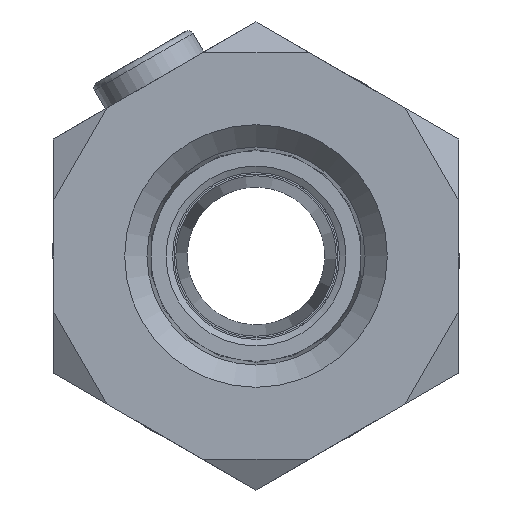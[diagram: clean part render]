
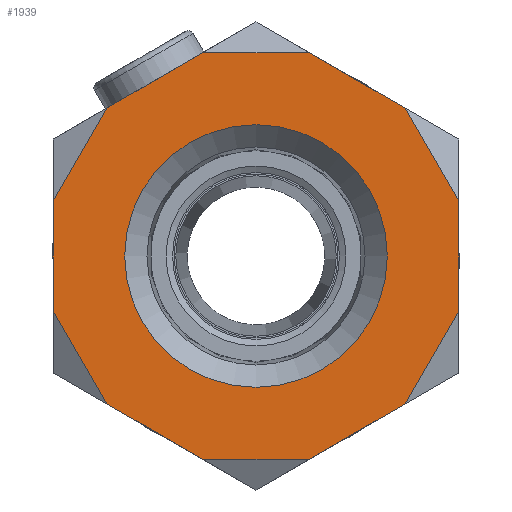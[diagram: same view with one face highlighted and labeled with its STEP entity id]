
A CAD part, left-side view. The second image highlights one B-rep face of the part: STEP entity #1939.
In plain terms, the highlighted planar face has unit normal (-1, 0, 0).
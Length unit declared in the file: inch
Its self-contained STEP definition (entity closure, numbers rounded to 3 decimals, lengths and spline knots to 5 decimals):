
#29 = CARTESIAN_POINT ( 'NONE',  ( 0., 0., -0.24242 ) ) ;
#98 = ORIENTED_EDGE ( 'NONE', *, *, #703, .F. ) ;
#101 = ORIENTED_EDGE ( 'NONE', *, *, #502, .T. ) ;
#114 = CARTESIAN_POINT ( 'NONE',  ( 0., -0.37402, 0.10219 ) ) ;
#122 = CARTESIAN_POINT ( 'NONE',  ( 0., -0.09851, -0.375 ) ) ;
#146 = LINE ( 'NONE', #1463, #1513 ) ;
#153 = VERTEX_POINT ( 'NONE', #2010 ) ;
#218 = EDGE_CURVE ( 'NONE', #264, #966, #2186, .T. ) ;
#223 = CARTESIAN_POINT ( 'NONE',  ( 0., 0.37402, 0.10219 ) ) ;
#264 = VERTEX_POINT ( 'NONE', #114 ) ;
#271 = LINE ( 'NONE', #921, #693 ) ;
#288 = CARTESIAN_POINT ( 'NONE',  ( 0., -0.2755, -0.27281 ) ) ;
#332 = VERTEX_POINT ( 'NONE', #29 ) ;
#388 = LINE ( 'NONE', #1400, #543 ) ;
#428 = LINE ( 'NONE', #1189, #2042 ) ;
#456 = DIRECTION ( 'NONE',  ( 0., 1., 0. ) ) ;
#458 = EDGE_CURVE ( 'NONE', #2212, #1710, #1057, .T. ) ;
#462 = ORIENTED_EDGE ( 'NONE', *, *, #1114, .T. ) ;
#463 = CARTESIAN_POINT ( 'NONE',  ( 0., 0.32476, -0.1875 ) ) ;
#465 = ORIENTED_EDGE ( 'NONE', *, *, #615, .T. ) ;
#475 = CARTESIAN_POINT ( 'NONE',  ( 0., -0.2755, 0.27281 ) ) ;
#500 = CARTESIAN_POINT ( 'NONE',  ( 0., 0.09851, 0.375 ) ) ;
#502 = EDGE_CURVE ( 'NONE', #621, #1108, #428, .T. ) ;
#508 = EDGE_CURVE ( 'NONE', #332, #332, #1201, .T. ) ;
#529 = LINE ( 'NONE', #2167, #1190 ) ;
#543 = VECTOR ( 'NONE', #2284, 39.37008 ) ;
#571 = VERTEX_POINT ( 'NONE', #122 ) ;
#594 = CARTESIAN_POINT ( 'NONE',  ( 0., 0.37402, -0.10219 ) ) ;
#615 = EDGE_CURVE ( 'NONE', #810, #571, #1634, .T. ) ;
#621 = VERTEX_POINT ( 'NONE', #288 ) ;
#642 = LINE ( 'NONE', #813, #1537 ) ;
#685 = VECTOR ( 'NONE', #1357, 39.37008 ) ;
#693 = VECTOR ( 'NONE', #2171, 39.37008 ) ;
#703 = EDGE_CURVE ( 'NONE', #2148, #966, #271, .T. ) ;
#810 = VERTEX_POINT ( 'NONE', #1519 ) ;
#813 = CARTESIAN_POINT ( 'NONE',  ( 0., 0., 0.375 ) ) ;
#820 = CARTESIAN_POINT ( 'NONE',  ( 0., -0.32476, 0.1875 ) ) ;
#834 = DIRECTION ( 'NONE',  ( 0., 0., -1. ) ) ;
#839 = DIRECTION ( 'NONE',  ( 1., 0., 0. ) ) ;
#849 = ORIENTED_EDGE ( 'NONE', *, *, #1372, .F. ) ;
#862 = VECTOR ( 'NONE', #1331, 39.37008 ) ;
#921 = CARTESIAN_POINT ( 'NONE',  ( 0., 0., 0.43188 ) ) ;
#939 = DIRECTION ( 'NONE',  ( 0., 0.5, 0.866 ) ) ;
#948 = DIRECTION ( 'NONE',  ( 0., 0., -1. ) ) ;
#955 = VECTOR ( 'NONE', #1345, 39.37008 ) ;
#963 = DIRECTION ( 'NONE',  ( 0., -0.866, 0.5 ) ) ;
#966 = VERTEX_POINT ( 'NONE', #475 ) ;
#967 = EDGE_CURVE ( 'NONE', #1940, #2275, #1429, .T. ) ;
#975 = ORIENTED_EDGE ( 'NONE', *, *, #218, .T. ) ;
#1007 = DIRECTION ( 'NONE',  ( 0., 0., -1. ) ) ;
#1011 = AXIS2_PLACEMENT_3D ( 'NONE', #1018, #839, #1007 ) ;
#1018 = CARTESIAN_POINT ( 'NONE',  ( 0., 0., 0. ) ) ;
#1036 = CARTESIAN_POINT ( 'NONE',  ( 0., 0.2755, 0.27281 ) ) ;
#1057 = LINE ( 'NONE', #1886, #1962 ) ;
#1064 = CARTESIAN_POINT ( 'NONE',  ( 0., -0.09851, 0.375 ) ) ;
#1105 = FACE_BOUND ( 'NONE', #1877, .T. ) ;
#1108 = VERTEX_POINT ( 'NONE', #1777 ) ;
#1114 = EDGE_CURVE ( 'NONE', #2212, #2275, #388, .T. ) ;
#1117 = DIRECTION ( 'NONE',  ( 0., 0.866, -0.5 ) ) ;
#1136 = CARTESIAN_POINT ( 'NONE',  ( 0., 0., 0. ) ) ;
#1186 = CARTESIAN_POINT ( 'NONE',  ( 0., 0.37402, -0.21594 ) ) ;
#1189 = CARTESIAN_POINT ( 'NONE',  ( 0., -0.32476, -0.1875 ) ) ;
#1190 = VECTOR ( 'NONE', #1420, 39.37008 ) ;
#1201 = CIRCLE ( 'NONE', #1011, 0.24242 ) ;
#1207 = ORIENTED_EDGE ( 'NONE', *, *, #2097, .T. ) ;
#1225 = VECTOR ( 'NONE', #939, 39.37008 ) ;
#1252 = EDGE_CURVE ( 'NONE', #810, #153, #529, .T. ) ;
#1306 = DIRECTION ( 'NONE',  ( 1., 0., 0. ) ) ;
#1331 = DIRECTION ( 'NONE',  ( 0., -0.5, -0.866 ) ) ;
#1345 = DIRECTION ( 'NONE',  ( 0., 0., 1. ) ) ;
#1357 = DIRECTION ( 'NONE',  ( 0., -1., 0. ) ) ;
#1372 = EDGE_CURVE ( 'NONE', #621, #571, #146, .T. ) ;
#1400 = CARTESIAN_POINT ( 'NONE',  ( 0., 0.32476, 0.1875 ) ) ;
#1407 = ORIENTED_EDGE ( 'NONE', *, *, #2040, .T. ) ;
#1411 = AXIS2_PLACEMENT_3D ( 'NONE', #1136, #1306, #948 ) ;
#1420 = DIRECTION ( 'NONE',  ( 0., 0.866, 0.5 ) ) ;
#1429 = LINE ( 'NONE', #1186, #955 ) ;
#1463 = CARTESIAN_POINT ( 'NONE',  ( 0., -0.37402, -0.21594 ) ) ;
#1513 = VECTOR ( 'NONE', #1117, 39.37008 ) ;
#1514 = LINE ( 'NONE', #463, #862 ) ;
#1519 = CARTESIAN_POINT ( 'NONE',  ( 0., 0.09851, -0.375 ) ) ;
#1527 = EDGE_LOOP ( 'NONE', ( #2103, #1207, #1573, #465, #849, #101, #1825, #975, #98, #1407, #1778, #462 ) ) ;
#1537 = VECTOR ( 'NONE', #456, 39.37008 ) ;
#1539 = CARTESIAN_POINT ( 'NONE',  ( 0., 0., -0.375 ) ) ;
#1573 = ORIENTED_EDGE ( 'NONE', *, *, #1252, .F. ) ;
#1634 = LINE ( 'NONE', #1539, #685 ) ;
#1698 = ORIENTED_EDGE ( 'NONE', *, *, #508, .T. ) ;
#1710 = VERTEX_POINT ( 'NONE', #500 ) ;
#1729 = VECTOR ( 'NONE', #834, 39.37008 ) ;
#1777 = CARTESIAN_POINT ( 'NONE',  ( 0., -0.37402, -0.10219 ) ) ;
#1778 = ORIENTED_EDGE ( 'NONE', *, *, #458, .F. ) ;
#1804 = EDGE_CURVE ( 'NONE', #264, #1108, #2008, .T. ) ;
#1825 = ORIENTED_EDGE ( 'NONE', *, *, #1804, .F. ) ;
#1877 = EDGE_LOOP ( 'NONE', ( #1698 ) ) ;
#1879 = PLANE ( 'NONE',  #1411 ) ;
#1886 = CARTESIAN_POINT ( 'NONE',  ( 0., 0.37402, 0.21594 ) ) ;
#1910 = CARTESIAN_POINT ( 'NONE',  ( 0., -0.37402, 0.21594 ) ) ;
#1939 = ADVANCED_FACE ( 'NONE', ( #1105, #2204 ), #1879, .F. ) ;
#1940 = VERTEX_POINT ( 'NONE', #594 ) ;
#1962 = VECTOR ( 'NONE', #963, 39.37008 ) ;
#2008 = LINE ( 'NONE', #1910, #1729 ) ;
#2010 = CARTESIAN_POINT ( 'NONE',  ( 0., 0.2755, -0.27281 ) ) ;
#2040 = EDGE_CURVE ( 'NONE', #2148, #1710, #642, .T. ) ;
#2042 = VECTOR ( 'NONE', #2077, 39.37008 ) ;
#2077 = DIRECTION ( 'NONE',  ( 0., -0.5, 0.866 ) ) ;
#2097 = EDGE_CURVE ( 'NONE', #1940, #153, #1514, .T. ) ;
#2103 = ORIENTED_EDGE ( 'NONE', *, *, #967, .F. ) ;
#2148 = VERTEX_POINT ( 'NONE', #1064 ) ;
#2167 = CARTESIAN_POINT ( 'NONE',  ( 0., 0., -0.43188 ) ) ;
#2171 = DIRECTION ( 'NONE',  ( 0., -0.866, -0.5 ) ) ;
#2186 = LINE ( 'NONE', #820, #1225 ) ;
#2204 = FACE_OUTER_BOUND ( 'NONE', #1527, .T. ) ;
#2212 = VERTEX_POINT ( 'NONE', #1036 ) ;
#2275 = VERTEX_POINT ( 'NONE', #223 ) ;
#2284 = DIRECTION ( 'NONE',  ( 0., 0.5, -0.866 ) ) ;
